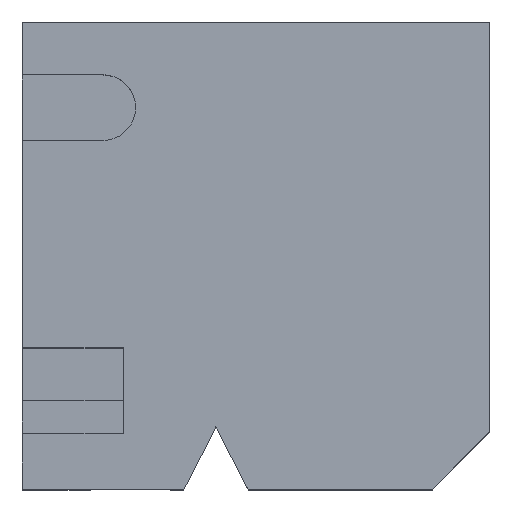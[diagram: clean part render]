
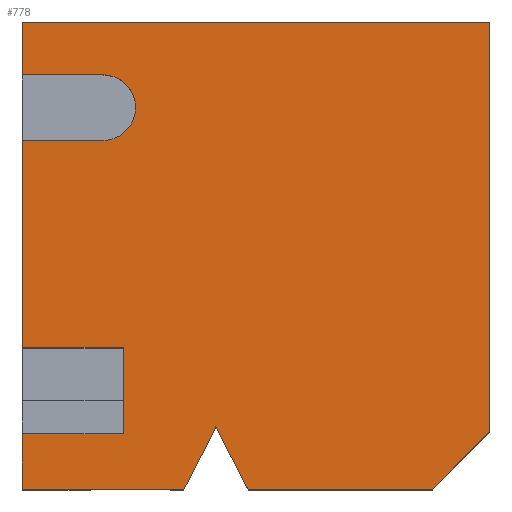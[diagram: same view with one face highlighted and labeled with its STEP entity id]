
A CAD part, top view. The second image highlights one B-rep face of the part: STEP entity #778.
In plain terms, the highlighted planar face has unit normal (0, 0, 1).
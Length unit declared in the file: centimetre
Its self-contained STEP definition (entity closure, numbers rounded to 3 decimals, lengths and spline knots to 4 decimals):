
#1 = CARTESIAN_POINT ( 'NONE',  ( 345.7306, 0., 1000. ) ) ;
#6 = VERTEX_POINT ( 'NONE', #989 ) ;
#8 = LINE ( 'NONE', #1115, #1523 ) ;
#14 = DIRECTION ( 'NONE',  ( 1., 0., 0. ) ) ;
#16 = VERTEX_POINT ( 'NONE', #661 ) ;
#23 = EDGE_CURVE ( 'NONE', #386, #514, #290, .T. ) ;
#30 = DIRECTION ( 'NONE',  ( 1., 0., 0. ) ) ;
#31 = EDGE_CURVE ( 'NONE', #514, #1074, #1043, .T. ) ;
#50 = DIRECTION ( 'NONE',  ( 0., -1., 0. ) ) ;
#53 = EDGE_LOOP ( 'NONE', ( #87, #1097, #970, #866, #1145, #1389, #1424, #459, #1494, #1542, #399, #707, #610, #1200, #150, #1285, #1388 ) ) ;
#58 = CARTESIAN_POINT ( 'NONE',  ( 438.4416, -438.4416, 1000. ) ) ;
#60 = CARTESIAN_POINT ( 'NONE',  ( 172.1278, 887.0931, 1000. ) ) ;
#66 = CARTESIAN_POINT ( 'NONE',  ( 172.1278, 816.8001, 1000. ) ) ;
#70 = CARTESIAN_POINT ( 'NONE',  ( 0., 118.559, 1000. ) ) ;
#85 = LINE ( 'NONE', #1573, #410 ) ;
#87 = ORIENTED_EDGE ( 'NONE', *, *, #311, .F. ) ;
#150 = ORIENTED_EDGE ( 'NONE', *, *, #612, .F. ) ;
#164 = EDGE_CURVE ( 'NONE', #6, #510, #1296, .T. ) ;
#177 = DIRECTION ( 'NONE',  ( 0., 0., 1. ) ) ;
#181 = VECTOR ( 'NONE', #969, 100. ) ;
#188 = DIRECTION ( 'NONE',  ( 0., -1., 0. ) ) ;
#227 = DIRECTION ( 'NONE',  ( 1., 0., 0. ) ) ;
#241 = DIRECTION ( 'NONE',  ( -1., 0., 0. ) ) ;
#250 = VERTEX_POINT ( 'NONE', #598 ) ;
#251 = CARTESIAN_POINT ( 'NONE',  ( 345.7306, 0., 1000. ) ) ;
#264 = VERTEX_POINT ( 'NONE', #385 ) ;
#265 = VERTEX_POINT ( 'NONE', #1130 ) ;
#286 = VECTOR ( 'NONE', #1463, 100. ) ;
#290 = LINE ( 'NONE', #1172, #443 ) ;
#298 = PLANE ( 'NONE',  #537 ) ;
#304 = EDGE_CURVE ( 'NONE', #759, #16, #8, .T. ) ;
#311 = EDGE_CURVE ( 'NONE', #16, #1074, #886, .T. ) ;
#334 = CARTESIAN_POINT ( 'NONE',  ( 0., 302.6588, 1000. ) ) ;
#370 = CARTESIAN_POINT ( 'NONE',  ( 172.1278, 816.8001, 1000. ) ) ;
#385 = CARTESIAN_POINT ( 'NONE',  ( 0., 1000., 1000. ) ) ;
#386 = VERTEX_POINT ( 'NONE', #1067 ) ;
#392 = LINE ( 'NONE', #1281, #1473 ) ;
#399 = ORIENTED_EDGE ( 'NONE', *, *, #719, .F. ) ;
#410 = VECTOR ( 'NONE', #1186, 100. ) ;
#417 = CARTESIAN_POINT ( 'NONE',  ( 483.0229, 0., 1000. ) ) ;
#430 = VECTOR ( 'NONE', #442, 100. ) ;
#431 = DIRECTION ( 'NONE',  ( 1., 0., 0. ) ) ;
#433 = EDGE_CURVE ( 'NONE', #264, #647, #853, .T. ) ;
#442 = DIRECTION ( 'NONE',  ( 0.707, 0.707, 0. ) ) ;
#443 = VECTOR ( 'NONE', #50, 100. ) ;
#459 = ORIENTED_EDGE ( 'NONE', *, *, #865, .F. ) ;
#470 = DIRECTION ( 'NONE',  ( 0., 0., 1. ) ) ;
#477 = LINE ( 'NONE', #971, #946 ) ;
#510 = VERTEX_POINT ( 'NONE', #1284 ) ;
#514 = VERTEX_POINT ( 'NONE', #916 ) ;
#522 = CIRCLE ( 'NONE', #785, 70.2929 ) ;
#526 = CARTESIAN_POINT ( 'NONE',  ( 0., 0., 1000. ) ) ;
#537 = AXIS2_PLACEMENT_3D ( 'NONE', #526, #177, #14 ) ;
#556 = CARTESIAN_POINT ( 'NONE',  ( 0., 1000., 1000. ) ) ;
#557 = VERTEX_POINT ( 'NONE', #928 ) ;
#579 = LINE ( 'NONE', #959, #286 ) ;
#586 = EDGE_CURVE ( 'NONE', #1262, #264, #579, .T. ) ;
#595 = EDGE_CURVE ( 'NONE', #265, #250, #844, .T. ) ;
#598 = CARTESIAN_POINT ( 'NONE',  ( 0., 302.6588, 1000. ) ) ;
#610 = ORIENTED_EDGE ( 'NONE', *, *, #595, .F. ) ;
#612 = EDGE_CURVE ( 'NONE', #386, #557, #677, .T. ) ;
#641 = CARTESIAN_POINT ( 'NONE',  ( 1000., 1000., 1000. ) ) ;
#647 = VERTEX_POINT ( 'NONE', #1455 ) ;
#661 = CARTESIAN_POINT ( 'NONE',  ( 414.3767, 133.1151, 1000. ) ) ;
#677 = LINE ( 'NONE', #70, #1267 ) ;
#707 = ORIENTED_EDGE ( 'NONE', *, *, #1351, .T. ) ;
#719 = EDGE_CURVE ( 'NONE', #727, #1433, #983, .T. ) ;
#727 = VERTEX_POINT ( 'NONE', #1166 ) ;
#737 = AXIS2_PLACEMENT_3D ( 'NONE', #370, #470, #1344 ) ;
#758 = CARTESIAN_POINT ( 'NONE',  ( 242.4208, 816.8001, 1000. ) ) ;
#759 = VERTEX_POINT ( 'NONE', #417 ) ;
#765 = FACE_OUTER_BOUND ( 'NONE', #53, .T. ) ;
#778 = ADVANCED_FACE ( 'NONE', ( #765 ), #298, .T. ) ;
#785 = AXIS2_PLACEMENT_3D ( 'NONE', #66, #1065, #1559 ) ;
#808 = VECTOR ( 'NONE', #988, 100. ) ;
#816 = VERTEX_POINT ( 'NONE', #758 ) ;
#820 = EDGE_CURVE ( 'NONE', #510, #1262, #1400, .T. ) ;
#840 = DIRECTION ( 'NONE',  ( 0., 1., 0. ) ) ;
#844 = LINE ( 'NONE', #334, #181 ) ;
#853 = LINE ( 'NONE', #556, #1524 ) ;
#856 = EDGE_CURVE ( 'NONE', #1433, #816, #1443, .T. ) ;
#865 = EDGE_CURVE ( 'NONE', #1191, #647, #477, .T. ) ;
#866 = ORIENTED_EDGE ( 'NONE', *, *, #164, .T. ) ;
#868 = DIRECTION ( 'NONE',  ( -0.458, 0.889, 0. ) ) ;
#886 = LINE ( 'NONE', #1, #808 ) ;
#898 = VECTOR ( 'NONE', #1013, 100. ) ;
#916 = CARTESIAN_POINT ( 'NONE',  ( 0., 0., 1000. ) ) ;
#928 = CARTESIAN_POINT ( 'NONE',  ( 216.103, 118.559, 1000. ) ) ;
#946 = VECTOR ( 'NONE', #241, 100. ) ;
#953 = CARTESIAN_POINT ( 'NONE',  ( 172.1278, 746.5072, 1000. ) ) ;
#959 = CARTESIAN_POINT ( 'NONE',  ( 0., 1000., 1000. ) ) ;
#969 = DIRECTION ( 'NONE',  ( -1., 0., 0. ) ) ;
#970 = ORIENTED_EDGE ( 'NONE', *, *, #1431, .T. ) ;
#971 = CARTESIAN_POINT ( 'NONE',  ( 172.1278, 887.0931, 1000. ) ) ;
#983 = LINE ( 'NONE', #1391, #1396 ) ;
#988 = DIRECTION ( 'NONE',  ( -0.458, -0.889, 0. ) ) ;
#989 = CARTESIAN_POINT ( 'NONE',  ( 876.8831, 0., 1000. ) ) ;
#1000 = VECTOR ( 'NONE', #840, 100. ) ;
#1012 = CARTESIAN_POINT ( 'NONE',  ( 0., 0., 1000. ) ) ;
#1013 = DIRECTION ( 'NONE',  ( 0., 1., 0. ) ) ;
#1043 = LINE ( 'NONE', #1012, #1346 ) ;
#1065 = DIRECTION ( 'NONE',  ( 0., 0., 1. ) ) ;
#1067 = CARTESIAN_POINT ( 'NONE',  ( 0., 118.559, 1000. ) ) ;
#1074 = VERTEX_POINT ( 'NONE', #251 ) ;
#1097 = ORIENTED_EDGE ( 'NONE', *, *, #304, .F. ) ;
#1115 = CARTESIAN_POINT ( 'NONE',  ( 414.3767, 133.1151, 1000. ) ) ;
#1130 = CARTESIAN_POINT ( 'NONE',  ( 216.103, 302.6588, 1000. ) ) ;
#1145 = ORIENTED_EDGE ( 'NONE', *, *, #820, .T. ) ;
#1163 = DIRECTION ( 'NONE',  ( 0., -1., 0. ) ) ;
#1166 = CARTESIAN_POINT ( 'NONE',  ( 0., 746.5072, 1000. ) ) ;
#1172 = CARTESIAN_POINT ( 'NONE',  ( 0., 1000., 1000. ) ) ;
#1186 = DIRECTION ( 'NONE',  ( 1., 0., 0. ) ) ;
#1191 = VERTEX_POINT ( 'NONE', #60 ) ;
#1200 = ORIENTED_EDGE ( 'NONE', *, *, #1251, .F. ) ;
#1218 = EDGE_CURVE ( 'NONE', #816, #1191, #522, .T. ) ;
#1226 = CARTESIAN_POINT ( 'NONE',  ( 1000., 1000., 1000. ) ) ;
#1251 = EDGE_CURVE ( 'NONE', #557, #265, #1375, .T. ) ;
#1262 = VERTEX_POINT ( 'NONE', #1226 ) ;
#1267 = VECTOR ( 'NONE', #227, 100. ) ;
#1281 = CARTESIAN_POINT ( 'NONE',  ( 0., 1000., 1000. ) ) ;
#1284 = CARTESIAN_POINT ( 'NONE',  ( 1000., 123.1169, 1000. ) ) ;
#1285 = ORIENTED_EDGE ( 'NONE', *, *, #23, .T. ) ;
#1296 = LINE ( 'NONE', #58, #430 ) ;
#1344 = DIRECTION ( 'NONE',  ( 1., 0., 0. ) ) ;
#1346 = VECTOR ( 'NONE', #431, 100. ) ;
#1351 = EDGE_CURVE ( 'NONE', #727, #250, #392, .T. ) ;
#1375 = LINE ( 'NONE', #1476, #1000 ) ;
#1388 = ORIENTED_EDGE ( 'NONE', *, *, #31, .T. ) ;
#1389 = ORIENTED_EDGE ( 'NONE', *, *, #586, .T. ) ;
#1391 = CARTESIAN_POINT ( 'NONE',  ( 0., 746.5072, 1000. ) ) ;
#1396 = VECTOR ( 'NONE', #30, 100. ) ;
#1400 = LINE ( 'NONE', #641, #898 ) ;
#1424 = ORIENTED_EDGE ( 'NONE', *, *, #433, .T. ) ;
#1431 = EDGE_CURVE ( 'NONE', #759, #6, #85, .T. ) ;
#1433 = VERTEX_POINT ( 'NONE', #953 ) ;
#1443 = CIRCLE ( 'NONE', #737, 70.2929 ) ;
#1455 = CARTESIAN_POINT ( 'NONE',  ( 0., 887.0931, 1000. ) ) ;
#1463 = DIRECTION ( 'NONE',  ( -1., 0., 0. ) ) ;
#1473 = VECTOR ( 'NONE', #188, 100. ) ;
#1476 = CARTESIAN_POINT ( 'NONE',  ( 216.103, 118.559, 1000. ) ) ;
#1494 = ORIENTED_EDGE ( 'NONE', *, *, #1218, .F. ) ;
#1523 = VECTOR ( 'NONE', #868, 100. ) ;
#1524 = VECTOR ( 'NONE', #1163, 100. ) ;
#1542 = ORIENTED_EDGE ( 'NONE', *, *, #856, .F. ) ;
#1559 = DIRECTION ( 'NONE',  ( 1., 0., 0. ) ) ;
#1573 = CARTESIAN_POINT ( 'NONE',  ( 0., 0., 1000. ) ) ;
